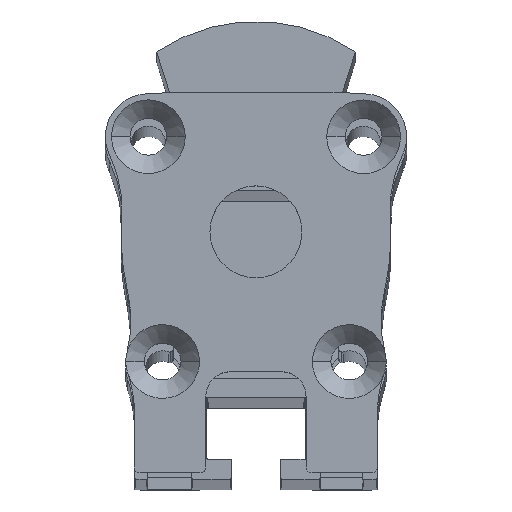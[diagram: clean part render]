
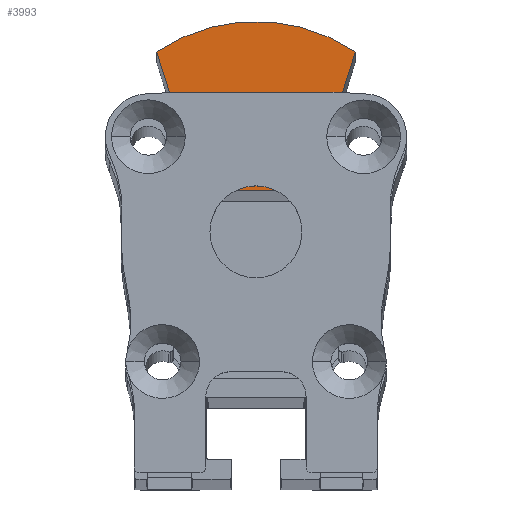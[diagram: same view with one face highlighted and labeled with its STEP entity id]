
A CAD part, top view. The second image highlights one B-rep face of the part: STEP entity #3993.
In plain terms, the highlighted planar face has unit normal (0, 0, 1).
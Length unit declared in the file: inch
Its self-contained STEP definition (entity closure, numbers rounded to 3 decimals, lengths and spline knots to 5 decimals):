
#3993=ADVANCED_FACE('',(#7809),#7810,.T.);
#4001=EDGE_CURVE('',#7813,#7819,#7822,.T.);
#4007=EDGE_CURVE('',#7827,#7819,#7830,.F.);
#4029=EDGE_CURVE('',#7861,#7862,#7863,.F.);
#4035=EDGE_CURVE('',#7869,#7870,#7871,.F.);
#4041=EDGE_CURVE('',#7870,#7861,#7877,.F.);
#4043=EDGE_CURVE('',#7869,#7879,#7880,.F.);
#4047=EDGE_CURVE('',#7813,#7862,#7884,.F.);
#4049=EDGE_CURVE('',#7886,#7887,#7888,.F.);
#4055=EDGE_CURVE('',#7827,#7894,#7895,.F.);
#4059=EDGE_CURVE('',#7894,#7886,#7899,.F.);
#4063=EDGE_CURVE('',#7901,#7887,#7904,.F.);
#4065=EDGE_CURVE('',#7879,#7901,#7906,.F.);
#7809=FACE_OUTER_BOUND('',#18407,.T.);
#7810=PLANE('',#18408);
#7813=VERTEX_POINT('',#18412);
#7819=VERTEX_POINT('',#18422);
#7822=LINE('',#18427,#18428);
#7827=VERTEX_POINT('',#18436);
#7830=LINE('',#18441,#18442);
#7861=VERTEX_POINT('',#18493);
#7862=VERTEX_POINT('',#18494);
#7863=LINE('',#18495,#18496);
#7869=VERTEX_POINT('',#18507);
#7870=VERTEX_POINT('',#18508);
#7871=LINE('',#18509,#18510);
#7877=LINE('',#18521,#18522);
#7879=VERTEX_POINT('',#18525);
#7880=LINE('',#18526,#18527);
#7884=LINE('',#18534,#18535);
#7886=VERTEX_POINT('',#18538);
#7887=VERTEX_POINT('',#18539);
#7888=LINE('',#18540,#18541);
#7894=VERTEX_POINT('',#18552);
#7895=LINE('',#18553,#18554);
#7899=LINE('',#18561,#18562);
#7901=VERTEX_POINT('',#18565);
#7904=LINE('',#18570,#18571);
#7906=CIRCLE('',#18574,0.56299);
#18407=EDGE_LOOP('',(#24116,#24117,#24118,#24119,#24120,#24121,#24122,#24123,#24124,#24125,#24126,#24127));
#18408=AXIS2_PLACEMENT_3D('',#24128,#24129,#24130);
#18412=CARTESIAN_POINT('',(-0.17932,0.15296,8.17996));
#18422=CARTESIAN_POINT('',(0.17932,0.15296,8.17996));
#18427=CARTESIAN_POINT('',(0.,0.15296,8.17996));
#18428=VECTOR('',#24134,1.0);
#18436=CARTESIAN_POINT('',(0.26301,0.4208,8.17996));
#18441=CARTESIAN_POINT('',(0.19145,0.19179,8.17996));
#18442=VECTOR('',#24137,1.0);
#18493=CARTESIAN_POINT('',(-0.21005,0.4208,8.17996));
#18494=CARTESIAN_POINT('',(-0.26301,0.4208,8.17996));
#18495=CARTESIAN_POINT('',(-0.12298,0.4208,8.17996));
#18496=VECTOR('',#24150,1.0);
#18507=CARTESIAN_POINT('',(-0.27532,0.46017,8.17996));
#18508=CARTESIAN_POINT('',(-0.21005,0.46017,8.17996));
#18509=CARTESIAN_POINT('',(-0.12298,0.46017,8.17996));
#18510=VECTOR('',#24153,1.0);
#18521=CARTESIAN_POINT('',(-0.21005,0.35333,8.17996));
#18522=VECTOR('',#24156,1.0);
#18525=CARTESIAN_POINT('',(-0.31832,0.59777,8.17996));
#18526=CARTESIAN_POINT('',(-0.19145,0.19179,8.17996));
#18527=VECTOR('',#24157,1.0);
#18534=CARTESIAN_POINT('',(-0.19145,0.19179,8.17996));
#18535=VECTOR('',#24159,1.0);
#18538=CARTESIAN_POINT('',(0.20856,0.46017,8.17996));
#18539=CARTESIAN_POINT('',(0.27532,0.46017,8.17996));
#18540=CARTESIAN_POINT('',(0.12223,0.46017,8.17996));
#18541=VECTOR('',#24160,1.0);
#18552=CARTESIAN_POINT('',(0.20856,0.4208,8.17996));
#18553=CARTESIAN_POINT('',(0.12223,0.4208,8.17996));
#18554=VECTOR('',#24163,1.0);
#18561=CARTESIAN_POINT('',(0.20856,0.35333,8.17996));
#18562=VECTOR('',#24165,1.0);
#18565=CARTESIAN_POINT('',(0.31832,0.59777,8.17996));
#18570=CARTESIAN_POINT('',(0.19145,0.19179,8.17996));
#18571=VECTOR('',#24167,1.0);
#18574=AXIS2_PLACEMENT_3D('',#24168,#24169,#24170);
#24116=ORIENTED_EDGE('',*,*,#4001,.T.);
#24117=ORIENTED_EDGE('',*,*,#4007,.F.);
#24118=ORIENTED_EDGE('',*,*,#4055,.T.);
#24119=ORIENTED_EDGE('',*,*,#4059,.T.);
#24120=ORIENTED_EDGE('',*,*,#4049,.T.);
#24121=ORIENTED_EDGE('',*,*,#4063,.F.);
#24122=ORIENTED_EDGE('',*,*,#4065,.F.);
#24123=ORIENTED_EDGE('',*,*,#4043,.F.);
#24124=ORIENTED_EDGE('',*,*,#4035,.T.);
#24125=ORIENTED_EDGE('',*,*,#4041,.T.);
#24126=ORIENTED_EDGE('',*,*,#4029,.T.);
#24127=ORIENTED_EDGE('',*,*,#4047,.F.);
#24128=CARTESIAN_POINT('',(0.,0.26619,8.17996));
#24129=DIRECTION('',(0.,0.,1.0));
#24130=DIRECTION('',(1.0,0.0,0.));
#24134=DIRECTION('',(1.0,0.0,0.));
#24137=DIRECTION('',(0.298,0.954,0.));
#24150=DIRECTION('',(1.0,0.0,0.));
#24153=DIRECTION('',(-1.0,0.0,0.));
#24156=DIRECTION('',(-0.0,1.0,0.));
#24157=DIRECTION('',(0.298,-0.954,0.));
#24159=DIRECTION('',(0.298,-0.954,0.));
#24160=DIRECTION('',(-1.0,0.0,0.));
#24163=DIRECTION('',(1.0,0.0,0.));
#24165=DIRECTION('',(-0.0,-1.0,0.));
#24167=DIRECTION('',(0.298,0.954,0.));
#24168=CARTESIAN_POINT('',(0.,0.13341,8.17996));
#24169=DIRECTION('',(0.,0.,1.0));
#24170=DIRECTION('',(1.0,0.,0.));
